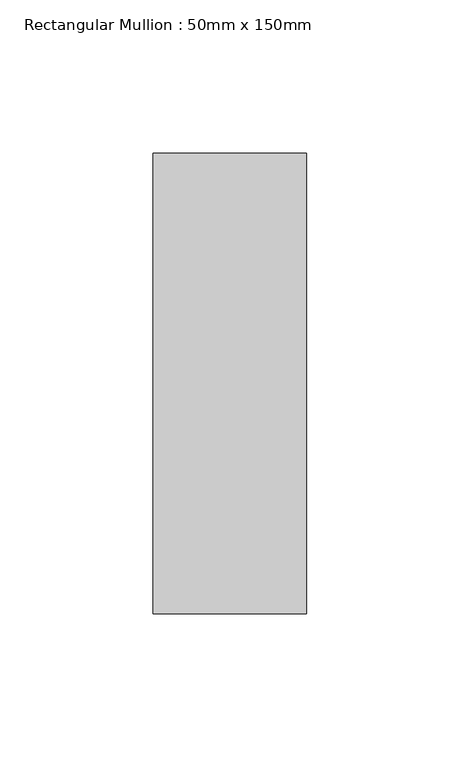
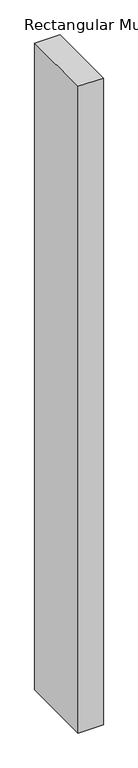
"""IFC4 building model written with IfcOpenShell, lengths in millimetres: member geometry, Rectangular Mullion : 50mm x 150mm."""

from ifc_helpers import new_model, si_unit, frame, origin, place, context, project, spatial, polyline, outline, extrude, source, transform, mapped, element, save


def rectangular_mullion_50mm_x_150mm_d94480a8(model_context):
    return source(origin(), model_context, "Body", "SweptSolid", [
        extrude(outline(polyline([(0.0, 75.0), (0.0, -75.0), (-50.0, -75.0), (-50.0, 75.0), (0.0, 75.0)])), frame((0.0, 0.0, -1360.0), z_axis=(0.0, 0.0, 1.0), x_axis=(1.0, 0.0, 0.0)), (0.0, 0.0, 1.0), 1360.0),
    ])


if __name__ == "__main__":
    model = new_model("IFC4")
    model_context = context("Model", 3, world=origin())
    ifc_project = project(units=[si_unit("LENGTHUNIT", "METRE", prefix="MILLI")], contexts=[model_context])
    site = spatial("IfcSite", under=ifc_project)
    building = spatial("IfcBuilding", under=site)
    placement = place(None, origin())
    rectangular_mullion_50mm_x_150mm_shape = rectangular_mullion_50mm_x_150mm_d94480a8(model_context)
    element("IfcMember", 1, ObjectType="Rectangular Mullion : 50mm x 150mm", at=placement, inside=building, context=model_context, shape_type="MappedRepresentation", body=[
        mapped(rectangular_mullion_50mm_x_150mm_shape, transform((0.0, 0.0, 0.0), x_axis=(1.0, 0.0, 0.0), y_axis=(0.0, 1.0, 0.0), z_axis=(0.0, 0.0, 1.0))),
    ])
    save(model, "model.ifc")
